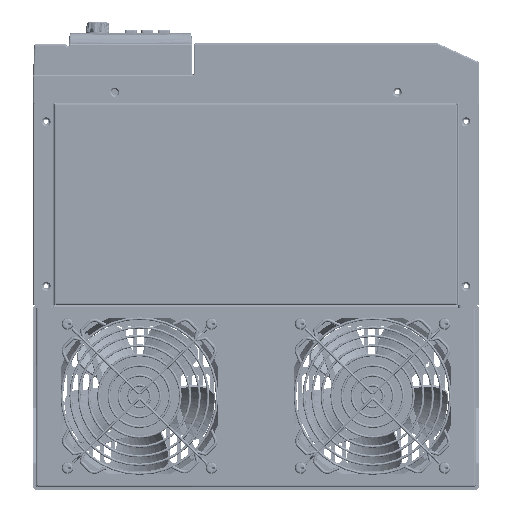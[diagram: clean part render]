
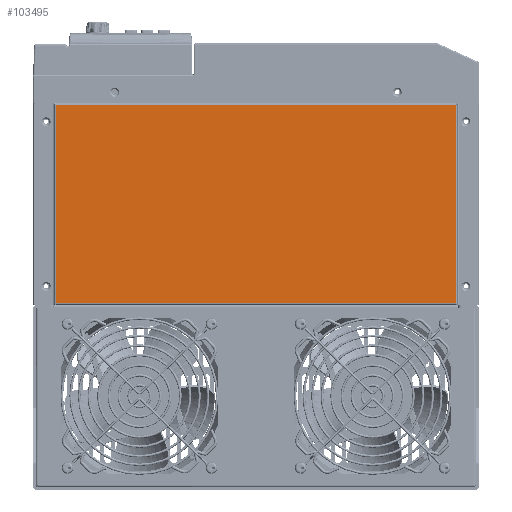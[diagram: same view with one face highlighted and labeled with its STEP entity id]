
A CAD part, front view. The second image highlights one B-rep face of the part: STEP entity #103495.
In plain terms, the highlighted planar face has unit normal (0, -1, 0).
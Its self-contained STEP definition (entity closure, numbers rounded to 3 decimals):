
#85610=DIRECTION('',(0.,0.,-1.));
#85611=VECTOR('',#85610,291.6);
#85612=CARTESIAN_POINT('',(-72.3,0.,145.8));
#85613=LINE('',#85612,#85611);
#85652=DIRECTION('',(-1.,0.,0.));
#85653=VECTOR('',#85652,144.6);
#85654=CARTESIAN_POINT('',(72.3,0.,145.8));
#85655=LINE('',#85654,#85653);
#88895=DIRECTION('',(1.,0.,0.));
#88896=VECTOR('',#88895,144.6);
#88897=CARTESIAN_POINT('',(-72.3,0.,-145.8));
#88898=LINE('',#88897,#88896);
#90113=DIRECTION('',(0.,0.,1.));
#90114=VECTOR('',#90113,291.6);
#90115=CARTESIAN_POINT('',(72.3,0.,-145.8));
#90116=LINE('',#90115,#90114);
#99852=CARTESIAN_POINT('',(-72.3,0.,145.8));
#99853=VERTEX_POINT('',#99852);
#99863=CARTESIAN_POINT('',(-72.3,0.,-145.8));
#99864=VERTEX_POINT('',#99863);
#99866=CARTESIAN_POINT('',(72.3,0.,145.8));
#99867=VERTEX_POINT('',#99866);
#99868=CARTESIAN_POINT('',(72.3,0.,-145.8));
#99869=VERTEX_POINT('',#99868);
#103481=CARTESIAN_POINT('',(-73.5,0.,147.));
#103482=DIRECTION('',(0.,-1.,0.));
#103483=DIRECTION('',(0.,0.,-1.));
#103484=AXIS2_PLACEMENT_3D('',#103481,#103482,#103483);
#103485=PLANE('',#103484);
#103486=ORIENTED_EDGE('',*,*,#103475,.F.);
#103488=ORIENTED_EDGE('',*,*,#103487,.F.);
#103490=ORIENTED_EDGE('',*,*,#103489,.F.);
#103492=ORIENTED_EDGE('',*,*,#103491,.F.);
#103493=EDGE_LOOP('',(#103486,#103488,#103490,#103492));
#103494=FACE_OUTER_BOUND('',#103493,.F.);
#103475=EDGE_CURVE('',#99853,#99864,#85613,.T.);
#103487=EDGE_CURVE('',#99867,#99853,#85655,.T.);
#103489=EDGE_CURVE('',#99869,#99867,#90116,.T.);
#103491=EDGE_CURVE('',#99864,#99869,#88898,.T.);
#103495=ADVANCED_FACE('',(#103494),#103485,.T.);
